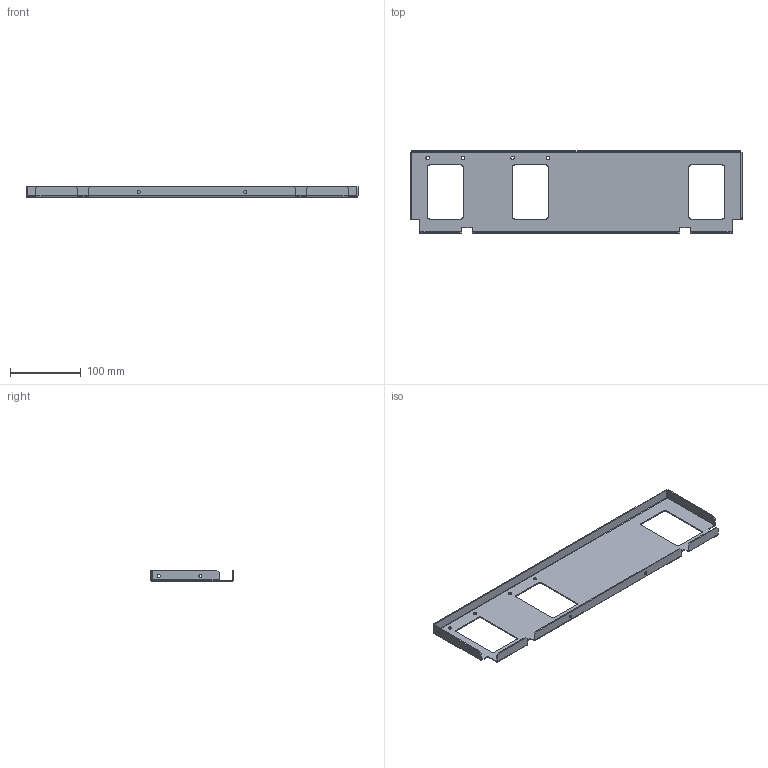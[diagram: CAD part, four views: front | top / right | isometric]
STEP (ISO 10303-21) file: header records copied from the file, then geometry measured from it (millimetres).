
FILE_DESCRIPTION(('CAx-IF Rec.Pracs.---Model Styling and Organization---1.2---2011-12-15','CAx-IF Rec.Pracs.---Geometric and Assembly Validation Properties---4.1---2014-06-16','CAx-IF Rec.Pracs.---PMI Polyline Presentation---2.0---2013-05-24'),'2;1');
FILE_NAME('R5M2W3M1BP.stp','2021-05-05T12:13:20+03:00',(''),(''),'STEP Interface 4.4 by CT CoreTechnologie','3D_Evolution4.4 by CT CoreTechnologie','');
FILE_SCHEMA(('AUTOMOTIVE_DESIGN { 1 0 10303 214 1 1 1 1 }'));
Length unit declared in the file: millimetre
Products named in the file (2): R5M2W3M1BP; RB.1511.00.00.0_default
Assembly tree (1 placements, depth 2):
  R5M2W3M1BP
    RB.1511.00.00.0_default
Bounding box: 469 x 116.5 x 15 mm (x, y, z)
Surface area: 115202.6 mm2 (no closed solid volume)
Topology: 0 solids, 1 shells, 107 faces, 289 edges, 184 vertices
Faces by surface type: plane 59, cylinder 44, bspline 4
Entity records: 3532 total; most frequent: CARTESIAN_POINT 658, DIRECTION 587, ORIENTED_EDGE 578, EDGE_CURVE 289, VECTOR 201, LINE 201, AXIS2_PLACEMENT_3D 193, VERTEX_POINT 184
